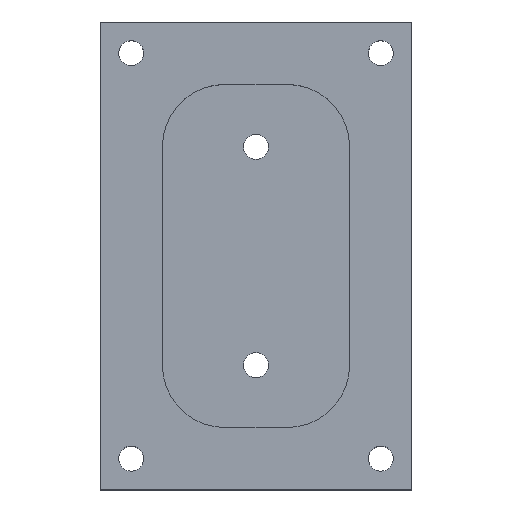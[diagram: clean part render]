
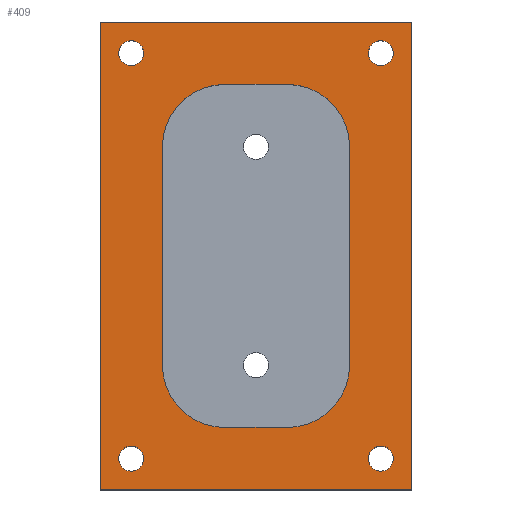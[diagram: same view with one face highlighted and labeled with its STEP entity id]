
A CAD part, top view. The second image highlights one B-rep face of the part: STEP entity #409.
In plain terms, the highlighted planar face has unit normal (0, 0, 1).
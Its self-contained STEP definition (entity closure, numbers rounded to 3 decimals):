
#17=FACE_BOUND('',#82,.T.);
#18=FACE_BOUND('',#83,.T.);
#19=FACE_BOUND('',#84,.T.);
#20=FACE_BOUND('',#85,.T.);
#21=FACE_BOUND('',#86,.T.);
#37=PLANE('',#464);
#58=FACE_OUTER_BOUND('',#81,.T.);
#81=EDGE_LOOP('',(#354,#355,#356,#357));
#82=EDGE_LOOP('',(#358,#359,#360,#361,#362,#363,#364,#365));
#83=EDGE_LOOP('',(#366));
#84=EDGE_LOOP('',(#367));
#85=EDGE_LOOP('',(#368));
#86=EDGE_LOOP('',(#369));
#96=LINE('',#600,#130);
#101=LINE('',#614,#135);
#105=LINE('',#626,#139);
#109=LINE('',#638,#143);
#118=LINE('',#677,#152);
#121=LINE('',#683,#155);
#124=LINE('',#689,#158);
#127=LINE('',#693,#161);
#130=VECTOR('',#484,10.);
#135=VECTOR('',#497,10.);
#139=VECTOR('',#509,10.);
#143=VECTOR('',#521,10.);
#152=VECTOR('',#564,10.);
#155=VECTOR('',#569,10.);
#158=VECTOR('',#574,10.);
#161=VECTOR('',#579,10.);
#166=CIRCLE('',#433,10.);
#168=CIRCLE('',#437,10.);
#170=CIRCLE('',#441,10.);
#172=CIRCLE('',#445,10.);
#174=CIRCLE('',#449,2.);
#176=CIRCLE('',#452,2.);
#178=CIRCLE('',#455,2.);
#180=CIRCLE('',#458,2.);
#186=VERTEX_POINT('',#598);
#187=VERTEX_POINT('',#599);
#190=VERTEX_POINT('',#607);
#192=VERTEX_POINT('',#613);
#194=VERTEX_POINT('',#619);
#196=VERTEX_POINT('',#625);
#198=VERTEX_POINT('',#631);
#200=VERTEX_POINT('',#637);
#202=VERTEX_POINT('',#647);
#204=VERTEX_POINT('',#653);
#206=VERTEX_POINT('',#659);
#208=VERTEX_POINT('',#665);
#212=VERTEX_POINT('',#674);
#213=VERTEX_POINT('',#676);
#215=VERTEX_POINT('',#682);
#217=VERTEX_POINT('',#688);
#224=EDGE_CURVE('',#186,#187,#96,.T.);
#228=EDGE_CURVE('',#190,#186,#166,.T.);
#231=EDGE_CURVE('',#192,#190,#101,.T.);
#234=EDGE_CURVE('',#194,#192,#168,.T.);
#237=EDGE_CURVE('',#196,#194,#105,.T.);
#240=EDGE_CURVE('',#198,#196,#170,.T.);
#243=EDGE_CURVE('',#200,#198,#109,.T.);
#246=EDGE_CURVE('',#187,#200,#172,.T.);
#248=EDGE_CURVE('',#202,#202,#174,.T.);
#251=EDGE_CURVE('',#204,#204,#176,.T.);
#254=EDGE_CURVE('',#206,#206,#178,.T.);
#257=EDGE_CURVE('',#208,#208,#180,.T.);
#262=EDGE_CURVE('',#213,#212,#118,.T.);
#265=EDGE_CURVE('',#215,#213,#121,.T.);
#268=EDGE_CURVE('',#217,#215,#124,.T.);
#271=EDGE_CURVE('',#212,#217,#127,.T.);
#354=ORIENTED_EDGE('',*,*,#271,.T.);
#355=ORIENTED_EDGE('',*,*,#268,.T.);
#356=ORIENTED_EDGE('',*,*,#265,.T.);
#357=ORIENTED_EDGE('',*,*,#262,.T.);
#358=ORIENTED_EDGE('',*,*,#224,.T.);
#359=ORIENTED_EDGE('',*,*,#246,.T.);
#360=ORIENTED_EDGE('',*,*,#243,.T.);
#361=ORIENTED_EDGE('',*,*,#240,.T.);
#362=ORIENTED_EDGE('',*,*,#237,.T.);
#363=ORIENTED_EDGE('',*,*,#234,.T.);
#364=ORIENTED_EDGE('',*,*,#231,.T.);
#365=ORIENTED_EDGE('',*,*,#228,.T.);
#366=ORIENTED_EDGE('',*,*,#257,.T.);
#367=ORIENTED_EDGE('',*,*,#254,.T.);
#368=ORIENTED_EDGE('',*,*,#251,.T.);
#369=ORIENTED_EDGE('',*,*,#248,.T.);
#409=ADVANCED_FACE('',(#58,#17,#18,#19,#20,#21),#37,.T.);
#433=AXIS2_PLACEMENT_3D('',#608,#490,#491);
#437=AXIS2_PLACEMENT_3D('',#620,#502,#503);
#441=AXIS2_PLACEMENT_3D('',#632,#514,#515);
#445=AXIS2_PLACEMENT_3D('',#643,#526,#527);
#449=AXIS2_PLACEMENT_3D('',#648,#534,#535);
#452=AXIS2_PLACEMENT_3D('',#654,#541,#542);
#455=AXIS2_PLACEMENT_3D('',#660,#548,#549);
#458=AXIS2_PLACEMENT_3D('',#666,#555,#556);
#464=AXIS2_PLACEMENT_3D('',#694,#580,#581);
#484=DIRECTION('',(-1.,0.,0.));
#490=DIRECTION('center_axis',(0.,0.,-1.));
#491=DIRECTION('ref_axis',(0.,-1.,0.));
#497=DIRECTION('',(0.,-1.,0.));
#502=DIRECTION('center_axis',(0.,0.,-1.));
#503=DIRECTION('ref_axis',(1.,0.,0.));
#509=DIRECTION('',(1.,0.,0.));
#514=DIRECTION('center_axis',(0.,0.,-1.));
#515=DIRECTION('ref_axis',(0.,1.,0.));
#521=DIRECTION('',(0.,1.,0.));
#526=DIRECTION('center_axis',(0.,0.,-1.));
#527=DIRECTION('ref_axis',(-1.,0.,0.));
#534=DIRECTION('center_axis',(0.,0.,-1.));
#535=DIRECTION('ref_axis',(1.,0.,0.));
#541=DIRECTION('center_axis',(0.,0.,-1.));
#542=DIRECTION('ref_axis',(1.,0.,0.));
#548=DIRECTION('center_axis',(0.,0.,-1.));
#549=DIRECTION('ref_axis',(1.,0.,0.));
#555=DIRECTION('center_axis',(0.,0.,-1.));
#556=DIRECTION('ref_axis',(1.,0.,0.));
#564=DIRECTION('',(0.,-1.,0.));
#569=DIRECTION('',(-1.,0.,0.));
#574=DIRECTION('',(0.,1.,0.));
#579=DIRECTION('',(1.,0.,0.));
#580=DIRECTION('center_axis',(0.,0.,1.));
#581=DIRECTION('ref_axis',(1.,0.,0.));
#598=CARTESIAN_POINT('',(30.,10.,12.));
#599=CARTESIAN_POINT('',(20.,10.,12.));
#600=CARTESIAN_POINT('',(27.5,10.,12.));
#607=CARTESIAN_POINT('',(40.,20.,12.));
#608=CARTESIAN_POINT('Origin',(30.,20.,12.));
#613=CARTESIAN_POINT('',(40.,55.,12.));
#614=CARTESIAN_POINT('',(40.,46.25,12.));
#619=CARTESIAN_POINT('',(30.,65.,12.));
#620=CARTESIAN_POINT('Origin',(30.,55.,12.));
#625=CARTESIAN_POINT('',(20.,65.,12.));
#626=CARTESIAN_POINT('',(22.5,65.,12.));
#631=CARTESIAN_POINT('',(10.,55.,12.));
#632=CARTESIAN_POINT('Origin',(20.,55.,12.));
#637=CARTESIAN_POINT('',(10.,20.,12.));
#638=CARTESIAN_POINT('',(10.,28.75,12.));
#643=CARTESIAN_POINT('Origin',(20.,20.,12.));
#647=CARTESIAN_POINT('',(3.,5.,12.));
#648=CARTESIAN_POINT('Origin',(5.,5.,12.));
#653=CARTESIAN_POINT('',(43.,70.,12.));
#654=CARTESIAN_POINT('Origin',(45.,70.,12.));
#659=CARTESIAN_POINT('',(43.,5.,12.));
#660=CARTESIAN_POINT('Origin',(45.,5.,12.));
#665=CARTESIAN_POINT('',(3.,70.,12.));
#666=CARTESIAN_POINT('Origin',(5.,70.,12.));
#674=CARTESIAN_POINT('',(0.,0.,12.));
#676=CARTESIAN_POINT('',(0.,75.,12.));
#677=CARTESIAN_POINT('',(0.,75.,12.));
#682=CARTESIAN_POINT('',(50.,75.,12.));
#683=CARTESIAN_POINT('',(50.,75.,12.));
#688=CARTESIAN_POINT('',(50.,0.,12.));
#689=CARTESIAN_POINT('',(50.,0.,12.));
#693=CARTESIAN_POINT('',(0.,0.,12.));
#694=CARTESIAN_POINT('Origin',(25.,37.5,12.));
